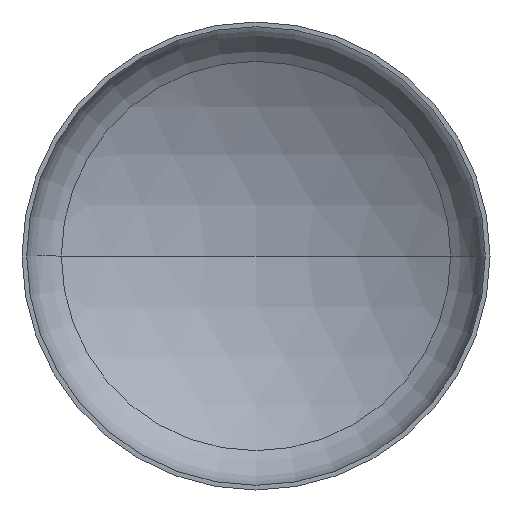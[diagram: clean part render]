
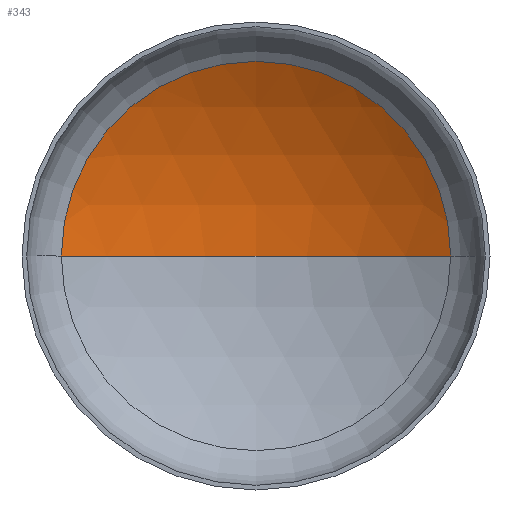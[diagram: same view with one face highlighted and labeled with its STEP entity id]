
A CAD part, front view. The second image highlights one B-rep face of the part: STEP entity #343.
In plain terms, the highlighted spherical face has radius 960 mm.
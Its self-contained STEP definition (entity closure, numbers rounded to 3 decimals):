
#5 = CARTESIAN_POINT ( 'NONE',  ( 0., 198.021, 0. ) ) ;
#6 = ORIENTED_EDGE ( 'NONE', *, *, #148, .F. ) ;
#9 = EDGE_LOOP ( 'NONE', ( #6, #40, #271 ) ) ;
#11 = CARTESIAN_POINT ( 'NONE',  ( 0., -621.979, 0. ) ) ;
#25 = AXIS2_PLACEMENT_3D ( 'NONE', #142, #395, #169 ) ;
#40 = ORIENTED_EDGE ( 'NONE', *, *, #143, .T. ) ;
#57 = VERTEX_POINT ( 'NONE', #253 ) ;
#62 = CARTESIAN_POINT ( 'NONE',  ( 0., -621.979, 0. ) ) ;
#74 = AXIS2_PLACEMENT_3D ( 'NONE', #62, #290, #200 ) ;
#78 = AXIS2_PLACEMENT_3D ( 'NONE', #11, #147, #315 ) ;
#82 = AXIS2_PLACEMENT_3D ( 'NONE', #5, #274, #196 ) ;
#127 = VERTEX_POINT ( 'NONE', #203 ) ;
#138 = EDGE_CURVE ( 'NONE', #202, #57, #354, .T. ) ;
#140 = SPHERICAL_SURFACE ( 'NONE', #25, 960. ) ;
#142 = CARTESIAN_POINT ( 'NONE',  ( 0., -621.979, 0. ) ) ;
#143 = EDGE_CURVE ( 'NONE', #127, #202, #411, .T. ) ;
#147 = DIRECTION ( 'NONE',  ( 0., 0., -1. ) ) ;
#148 = EDGE_CURVE ( 'NONE', #127, #57, #237, .T. ) ;
#169 = DIRECTION ( 'NONE',  ( -1., 0., 0. ) ) ;
#196 = DIRECTION ( 'NONE',  ( 1., 0., 0. ) ) ;
#200 = DIRECTION ( 'NONE',  ( 1., 0., 0. ) ) ;
#202 = VERTEX_POINT ( 'NONE', #220 ) ;
#203 = CARTESIAN_POINT ( 'NONE',  ( 0., 338.021, 0. ) ) ;
#220 = CARTESIAN_POINT ( 'NONE',  ( 499.2, 198.021, 0. ) ) ;
#237 = CIRCLE ( 'NONE', #74, 960. ) ;
#253 = CARTESIAN_POINT ( 'NONE',  ( -499.2, 198.021, 0. ) ) ;
#271 = ORIENTED_EDGE ( 'NONE', *, *, #138, .T. ) ;
#274 = DIRECTION ( 'NONE',  ( 0., -1., 0. ) ) ;
#290 = DIRECTION ( 'NONE',  ( 0., 0., 1. ) ) ;
#315 = DIRECTION ( 'NONE',  ( -1., 0., 0. ) ) ;
#343 = ADVANCED_FACE ( 'NONE', ( #397 ), #140, .F. ) ;
#354 = CIRCLE ( 'NONE', #82, 499.2 ) ;
#395 = DIRECTION ( 'NONE',  ( 0., 0., -1. ) ) ;
#397 = FACE_OUTER_BOUND ( 'NONE', #9, .T. ) ;
#411 = CIRCLE ( 'NONE', #78, 960. ) ;
